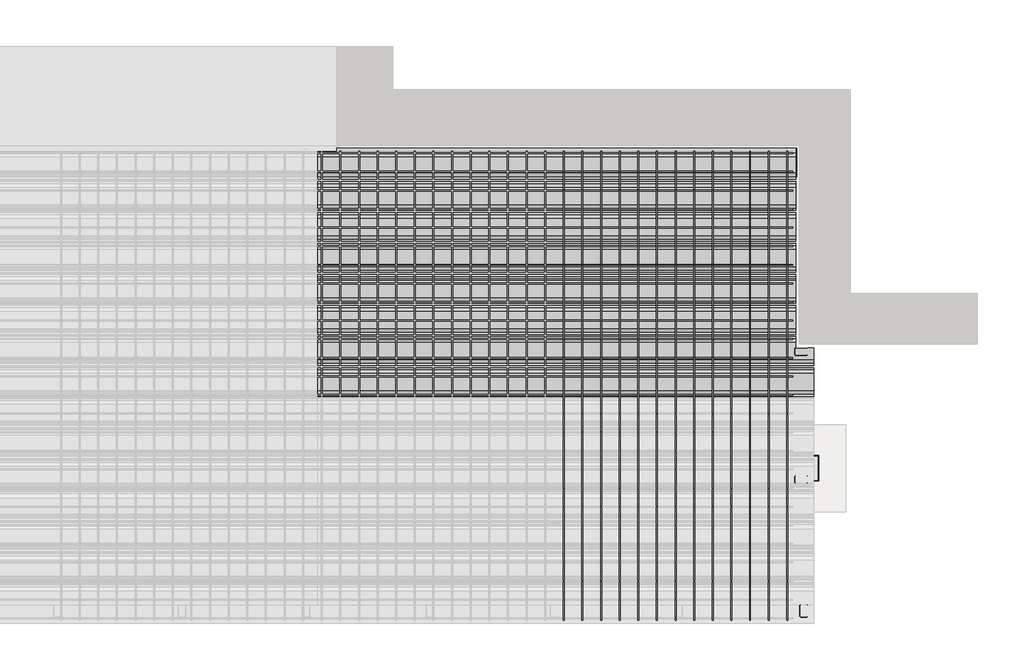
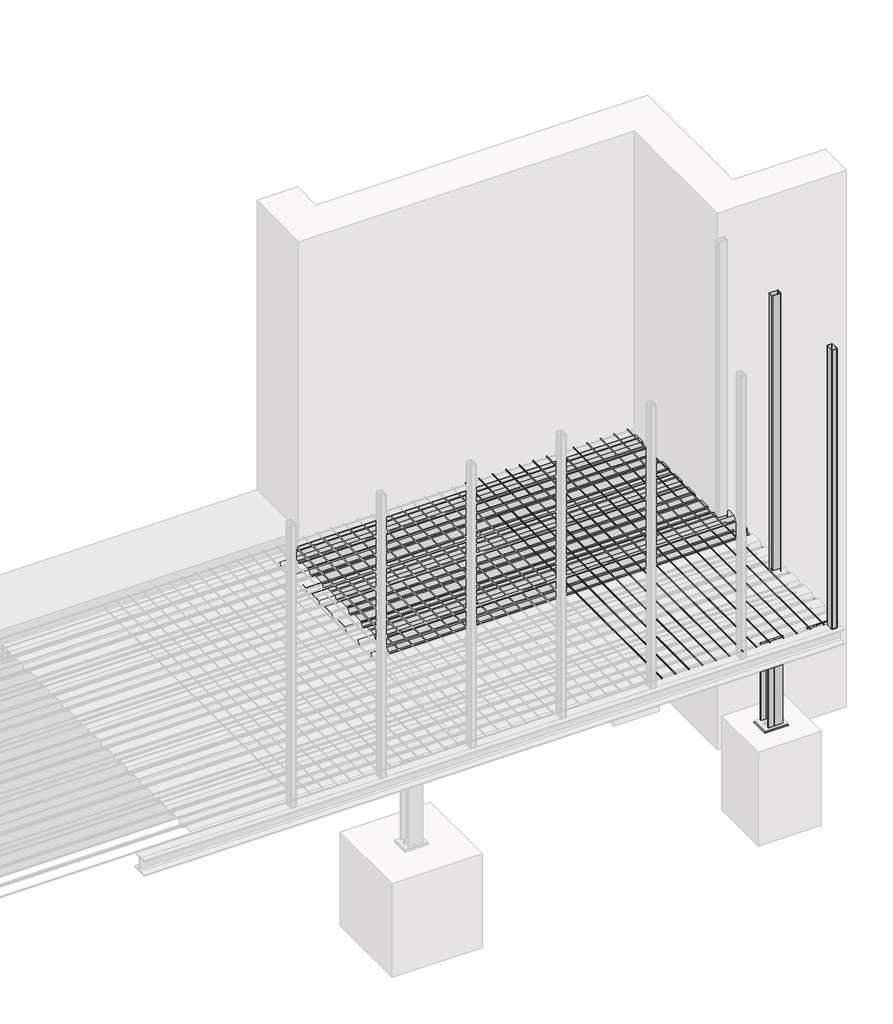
# One storey, part 5 of 36: 20 beams, 4 columns, 4 plates.
"""IFC4 building model written with IfcOpenShell, lengths in millimetres."""

from ifc_helpers import new_model, si_unit, point, frame, frame_2d, origin, place, context, project, spatial, polyline, circle_curve, ellipse_curve, trimmed, segment, composite_curve, outline, extrude, faceted_brep, element, save
from ifc_brep_helpers import plane_surface, revolved_surface, advanced_brep

model = new_model("IFC4")

# Units and contexts
model_context = context("Model", 3, world=origin())
ifc_project = project(units=[si_unit("LENGTHUNIT", "METRE", prefix="MILLI")], contexts=[model_context])

# Site, building, storey
site = spatial("IfcSite", under=ifc_project)
building = spatial("IfcBuilding", under=site)
storey = spatial("IfcBuildingStorey", under=building, Name="Základy", Elevation=-1200.0)

# Beams
placement = place(None, origin())
element("IfcBeam", 1, ObjectType="D8", at=placement, inside=storey, context=model_context, shape_type="SweptSolid", body=[
    extrude(outline(composite_curve([segment(trimmed(circle_curve(frame_2d((-49.0, 14127.5)), 4.0), [point((-49.0, 14123.5))], [point((-49.0, 14131.5))], False, "CARTESIAN"), True, "CONTINUOUS"), segment(trimmed(circle_curve(frame_2d((-49.0, 14127.5)), 4.0), [point((-49.0, 14131.5))], [point((-49.0, 14123.5))], False, "CARTESIAN"), True, "CONTINUOUS")], self_intersect=False)), frame((0.0, 35.0, 0.0), z_axis=(0.0, 1.0, 0.0), x_axis=(0.0, 0.0, 1.0)), (0.0, 0.0, 1.0), 3780.0),
])
element("IfcBeam", 2, ObjectType="D8", at=placement, inside=storey, context=model_context, shape_type="SweptSolid", body=[
    extrude(outline(composite_curve([segment(trimmed(circle_curve(frame_2d((-49.0, 14277.5)), 4.0), [point((-49.0, 14273.5))], [point((-49.0, 14281.5))], False, "CARTESIAN"), True, "CONTINUOUS"), segment(trimmed(circle_curve(frame_2d((-49.0, 14277.5)), 4.0), [point((-49.0, 14281.5))], [point((-49.0, 14273.5))], False, "CARTESIAN"), True, "CONTINUOUS")], self_intersect=False)), frame((0.0, 35.0, 0.0), z_axis=(0.0, 1.0, 0.0), x_axis=(0.0, 0.0, 1.0)), (0.0, 0.0, 1.0), 3780.0),
])
element("IfcBeam", 3, ObjectType="D8", at=placement, inside=storey, context=model_context, shape_type="SweptSolid", body=[
    extrude(outline(composite_curve([segment(trimmed(circle_curve(frame_2d((-49.0, 14427.5)), 4.0), [point((-49.0, 14423.5))], [point((-49.0, 14431.5))], False, "CARTESIAN"), True, "CONTINUOUS"), segment(trimmed(circle_curve(frame_2d((-49.0, 14427.5)), 4.0), [point((-49.0, 14431.5))], [point((-49.0, 14423.5))], False, "CARTESIAN"), True, "CONTINUOUS")], self_intersect=False)), frame((0.0, 35.0, 0.0), z_axis=(0.0, 1.0, 0.0), x_axis=(0.0, 0.0, 1.0)), (0.0, 0.0, 1.0), 3780.0),
])
element("IfcBeam", 4, ObjectType="D8", at=placement, inside=storey, context=model_context, shape_type="SweptSolid", body=[
    extrude(outline(composite_curve([segment(trimmed(circle_curve(frame_2d((-49.0, 14577.5)), 4.0), [point((-49.0, 14573.5))], [point((-49.0, 14581.5))], False, "CARTESIAN"), True, "CONTINUOUS"), segment(trimmed(circle_curve(frame_2d((-49.0, 14577.5)), 4.0), [point((-49.0, 14581.5))], [point((-49.0, 14573.5))], False, "CARTESIAN"), True, "CONTINUOUS")], self_intersect=False)), frame((0.0, 35.0, 0.0), z_axis=(0.0, 1.0, 0.0), x_axis=(0.0, 0.0, 1.0)), (0.0, 0.0, 1.0), 3780.0),
])
element("IfcBeam", 5, ObjectType="D8", at=placement, inside=storey, context=model_context, shape_type="SweptSolid", body=[
    extrude(outline(composite_curve([segment(trimmed(circle_curve(frame_2d((-49.0, 14727.5)), 4.0), [point((-49.0, 14723.5))], [point((-49.0, 14731.5))], False, "CARTESIAN"), True, "CONTINUOUS"), segment(trimmed(circle_curve(frame_2d((-49.0, 14727.5)), 4.0), [point((-49.0, 14731.5))], [point((-49.0, 14723.5))], False, "CARTESIAN"), True, "CONTINUOUS")], self_intersect=False)), frame((0.0, 35.0, 0.0), z_axis=(0.0, 1.0, 0.0), x_axis=(0.0, 0.0, 1.0)), (0.0, 0.0, 1.0), 3780.0),
])
element("IfcBeam", 6, ObjectType="D8", at=placement, inside=storey, context=model_context, shape_type="SweptSolid", body=[
    extrude(outline(composite_curve([segment(trimmed(circle_curve(frame_2d((-49.0, 14877.5)), 4.0), [point((-49.0, 14873.5))], [point((-49.0, 14881.5))], False, "CARTESIAN"), True, "CONTINUOUS"), segment(trimmed(circle_curve(frame_2d((-49.0, 14877.5)), 4.0), [point((-49.0, 14881.5))], [point((-49.0, 14873.5))], False, "CARTESIAN"), True, "CONTINUOUS")], self_intersect=False)), frame((0.0, 35.0, 0.0), z_axis=(0.0, 1.0, 0.0), x_axis=(0.0, 0.0, 1.0)), (0.0, 0.0, 1.0), 3780.0),
])
element("IfcBeam", 7, ObjectType="D8", at=placement, inside=storey, context=model_context, shape_type="SweptSolid", body=[
    extrude(outline(composite_curve([segment(trimmed(circle_curve(frame_2d((-49.0, 15027.5)), 4.0), [point((-49.0, 15023.5))], [point((-49.0, 15031.5))], False, "CARTESIAN"), True, "CONTINUOUS"), segment(trimmed(circle_curve(frame_2d((-49.0, 15027.5)), 4.0), [point((-49.0, 15031.5))], [point((-49.0, 15023.5))], False, "CARTESIAN"), True, "CONTINUOUS")], self_intersect=False)), frame((0.0, 35.0, 0.0), z_axis=(0.0, 1.0, 0.0), x_axis=(0.0, 0.0, 1.0)), (0.0, 0.0, 1.0), 3780.0),
])
element("IfcBeam", 8, ObjectType="D8", at=placement, inside=storey, context=model_context, shape_type="SweptSolid", body=[
    extrude(outline(composite_curve([segment(trimmed(circle_curve(frame_2d((-49.0, 15177.5)), 4.0), [point((-49.0, 15173.5))], [point((-49.0, 15181.5))], False, "CARTESIAN"), True, "CONTINUOUS"), segment(trimmed(circle_curve(frame_2d((-49.0, 15177.5)), 4.0), [point((-49.0, 15181.5))], [point((-49.0, 15173.5))], False, "CARTESIAN"), True, "CONTINUOUS")], self_intersect=False)), frame((0.0, 35.0, 0.0), z_axis=(0.0, 1.0, 0.0), x_axis=(0.0, 0.0, 1.0)), (0.0, 0.0, 1.0), 3780.0),
])
element("IfcBeam", 9, ObjectType="D8", at=placement, inside=storey, context=model_context, shape_type="SweptSolid", body=[
    extrude(outline(composite_curve([segment(trimmed(circle_curve(frame_2d((-49.0, 15327.5)), 4.0), [point((-49.0, 15323.5))], [point((-49.0, 15331.5))], False, "CARTESIAN"), True, "CONTINUOUS"), segment(trimmed(circle_curve(frame_2d((-49.0, 15327.5)), 4.0), [point((-49.0, 15331.5))], [point((-49.0, 15323.5))], False, "CARTESIAN"), True, "CONTINUOUS")], self_intersect=False)), frame((0.0, 35.0, 0.0), z_axis=(0.0, 1.0, 0.0), x_axis=(0.0, 0.0, 1.0)), (0.0, 0.0, 1.0), 3780.0),
])
element("IfcBeam", 10, ObjectType="D8", at=placement, inside=storey, context=model_context, shape_type="SweptSolid", body=[
    extrude(outline(composite_curve([segment(trimmed(circle_curve(frame_2d((-49.0, 15477.5)), 4.0), [point((-49.0, 15473.5))], [point((-49.0, 15481.5))], False, "CARTESIAN"), True, "CONTINUOUS"), segment(trimmed(circle_curve(frame_2d((-49.0, 15477.5)), 4.0), [point((-49.0, 15481.5))], [point((-49.0, 15473.5))], False, "CARTESIAN"), True, "CONTINUOUS")], self_intersect=False)), frame((0.0, 35.0, 0.0), z_axis=(0.0, 1.0, 0.0), x_axis=(0.0, 0.0, 1.0)), (0.0, 0.0, 1.0), 3780.0),
])
element("IfcBeam", 11, ObjectType="D8", at=placement, inside=storey, context=model_context, shape_type="SweptSolid", body=[
    extrude(outline(composite_curve([segment(trimmed(circle_curve(frame_2d((-49.0, 15627.5)), 4.0), [point((-49.0, 15623.5))], [point((-49.0, 15631.5))], False, "CARTESIAN"), True, "CONTINUOUS"), segment(trimmed(circle_curve(frame_2d((-49.0, 15627.5)), 4.0), [point((-49.0, 15631.5))], [point((-49.0, 15623.5))], False, "CARTESIAN"), True, "CONTINUOUS")], self_intersect=False)), frame((0.0, 35.0, 0.0), z_axis=(0.0, 1.0, 0.0), x_axis=(0.0, 0.0, 1.0)), (0.0, 0.0, 1.0), 3780.0),
])
element("IfcBeam", 12, ObjectType="D8", at=placement, inside=storey, context=model_context, shape_type="SweptSolid", body=[
    extrude(outline(composite_curve([segment(trimmed(circle_curve(frame_2d((-49.0, 15777.5)), 4.0), [point((-49.0, 15773.5))], [point((-49.0, 15781.5))], False, "CARTESIAN"), True, "CONTINUOUS"), segment(trimmed(circle_curve(frame_2d((-49.0, 15777.5)), 4.0), [point((-49.0, 15781.5))], [point((-49.0, 15773.5))], False, "CARTESIAN"), True, "CONTINUOUS")], self_intersect=False)), frame((0.0, 35.0, 0.0), z_axis=(0.0, 1.0, 0.0), x_axis=(0.0, 0.0, 1.0)), (0.0, 0.0, 1.0), 3780.0),
])
element("IfcBeam", 13, ObjectType="D8", at=placement, inside=storey, context=model_context, shape_type="SweptSolid", body=[
    extrude(outline(composite_curve([segment(trimmed(circle_curve(frame_2d((-49.0, 15927.5)), 4.0), [point((-49.0, 15923.5))], [point((-49.0, 15931.5))], False, "CARTESIAN"), True, "CONTINUOUS"), segment(trimmed(circle_curve(frame_2d((-49.0, 15927.5)), 4.0), [point((-49.0, 15931.5))], [point((-49.0, 15923.5))], False, "CARTESIAN"), True, "CONTINUOUS")], self_intersect=False)), frame((0.0, 35.0, 0.0), z_axis=(0.0, 1.0, 0.0), x_axis=(0.0, 0.0, 1.0)), (0.0, 0.0, 1.0), 3780.0),
])
element("IfcBeam", 14, ObjectType="HEB180", at=placement, inside=storey, context=model_context, shape_type="AdvancedBrep", body=[
    advanced_brep(
    [(15960.0, 2050.0, -160.0), (16140.0, 2230.0, -160.0), (15995.0, 2230.0, -160.0), (15815.0, 2050.0, -160.0), (15960.0, 2050.0, -174.0), (15815.0, 2050.0, -174.0), (16030.75, 2120.75, -174.0), (15885.75, 2120.75, -174.0), (16045.75, 2135.75, -189.0), (15900.75, 2135.75, -189.0), (16045.75, 2135.75, -311.0), (15900.75, 2135.75, -311.0), (16030.75, 2120.75, -326.0), (15885.75, 2120.75, -326.0), (15960.0, 2050.0, -326.0), (15815.0, 2050.0, -326.0), (15960.0, 2050.0, -340.0), (15815.0, 2050.0, -340.0), (16140.0, 2230.0, -340.0), (15995.0, 2230.0, -340.0), (16140.0, 2230.0, -326.0), (15995.0, 2230.0, -326.0), (16069.25, 2159.25, -326.0), (15924.25, 2159.25, -326.0), (16054.25, 2144.25, -311.0), (15909.25, 2144.25, -311.0), (16054.25, 2144.25, -189.0), (15909.25, 2144.25, -189.0), (16069.25, 2159.25, -174.0), (15924.25, 2159.25, -174.0), (16140.0, 2230.0, -174.0), (15995.0, 2230.0, -174.0)],
    [
        (0, 1),
        (1, 2),
        (2, 3),
        (3, 0),
        (4, 0),
        (3, 5),
        (5, 4),
        (6, 4),
        (5, 7),
        (7, 6),
        (8, 6, ellipse_curve(frame((16030.75, 2120.75, -189.0), z_axis=(0.7071067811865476, -0.7071067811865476, 0.0), x_axis=(-0.7071067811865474, -0.7071067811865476, 0.0)), 21.2132034, 15.0)),
        (7, 9, ellipse_curve(frame((15885.75, 2120.75, -189.0), z_axis=(-0.7071067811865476, 0.7071067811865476, 0.0), x_axis=(-0.7071067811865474, -0.7071067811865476, 0.0)), 21.2132034, 15.0)),
        (9, 8),
        (10, 8),
        (9, 11),
        (11, 10),
        (12, 10, ellipse_curve(frame((16030.75, 2120.75, -311.0), z_axis=(0.7071067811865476, -0.7071067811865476, 0.0), x_axis=(-0.7071067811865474, -0.7071067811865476, 0.0)), 21.2132034, 15.0)),
        (11, 13, ellipse_curve(frame((15885.75, 2120.75, -311.0), z_axis=(-0.7071067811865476, 0.7071067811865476, 0.0), x_axis=(-0.7071067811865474, -0.7071067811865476, 0.0)), 21.2132034, 15.0)),
        (13, 12),
        (14, 12),
        (13, 15),
        (15, 14),
        (16, 14),
        (15, 17),
        (17, 16),
        (18, 16),
        (17, 19),
        (19, 18),
        (20, 18),
        (19, 21),
        (21, 20),
        (22, 20),
        (21, 23),
        (23, 22),
        (24, 22, ellipse_curve(frame((16069.25, 2159.25, -311.0), z_axis=(0.7071067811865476, -0.7071067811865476, 0.0), x_axis=(-0.7071067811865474, -0.7071067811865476, 0.0)), 21.2132034, 15.0)),
        (23, 25, ellipse_curve(frame((15924.25, 2159.25, -311.0), z_axis=(-0.7071067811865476, 0.7071067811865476, 0.0), x_axis=(-0.7071067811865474, -0.7071067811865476, 0.0)), 21.2132034, 15.0)),
        (25, 24),
        (26, 24),
        (25, 27),
        (27, 26),
        (28, 26, ellipse_curve(frame((16069.25, 2159.25, -189.0), z_axis=(0.7071067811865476, -0.7071067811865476, 0.0), x_axis=(-0.7071067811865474, -0.7071067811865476, 0.0)), 21.2132034, 15.0)),
        (27, 29, ellipse_curve(frame((15924.25, 2159.25, -189.0), z_axis=(-0.7071067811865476, 0.7071067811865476, 0.0), x_axis=(-0.7071067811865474, -0.7071067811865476, 0.0)), 21.2132034, 15.0)),
        (29, 28),
        (30, 28),
        (29, 31),
        (31, 30),
        (1, 30),
        (31, 2),
    ],
    [
        plane_surface(frame((16150.0, 2230.0, -160.0), z_axis=(0.0, 0.0, 1.0), x_axis=(-1.0, 0.0, 0.0))),
        plane_surface(frame((16150.0, 2050.0, -160.0), z_axis=(0.0, -1.0, 0.0), x_axis=(-1.0, 0.0, 0.0))),
        plane_surface(frame((16150.0, 2050.0, -174.0), z_axis=(0.0, 0.0, -1.0), x_axis=(-1.0, 0.0, 0.0))),
        revolved_surface(polyline([(15870.750000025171, 2105.75, -189.0), (16045.75, 2105.75, -189.0)]), (15805.0, 2120.75, -189.0), (-1.0, 0.0, 0.0)),
        plane_surface(frame((16150.0, 2135.75, -189.0), z_axis=(0.0, -1.0, 0.0), x_axis=(-1.0, 0.0, 0.0))),
        revolved_surface(polyline([(15870.750000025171, 2105.75, -311.0), (16045.75, 2105.75, -311.0)]), (15805.0, 2120.75, -311.0), (-1.0, 0.0, 0.0)),
        plane_surface(frame((16150.0, 2120.75, -326.0), z_axis=(0.0, 0.0, 1.0), x_axis=(-1.0, 0.0, 0.0))),
        plane_surface(frame((16150.0, 2050.0, -326.0), z_axis=(0.0, -1.0, 0.0), x_axis=(-1.0, 0.0, 0.0))),
        plane_surface(frame((16150.0, 2050.0, -340.0), z_axis=(0.0, 0.0, -1.0), x_axis=(-1.0, 0.0, 0.0))),
        plane_surface(frame((16150.0, 2230.0, -340.0), z_axis=(0.0, 1.0, 0.0), x_axis=(-1.0, 0.0, 0.0))),
        plane_surface(frame((16150.0, 2230.0, -326.0), z_axis=(0.0, 0.0, 1.0), x_axis=(-1.0, 0.0, 0.0))),
        revolved_surface(polyline([(15909.25, 2144.25, -311.0), (16084.249999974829, 2144.25, -311.0)]), (15805.0, 2159.25, -311.0), (-1.0, 0.0, 0.0)),
        plane_surface(frame((16150.0, 2144.25, -311.0), z_axis=(0.0, 1.0, 0.0), x_axis=(-1.0, 0.0, 0.0))),
        revolved_surface(polyline([(15909.25, 2144.25, -189.0), (16084.249999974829, 2144.25, -189.0)]), (15805.0, 2159.25, -189.0), (-1.0, 0.0, 0.0)),
        plane_surface(frame((16150.0, 2159.25, -174.0), z_axis=(0.0, 0.0, -1.0), x_axis=(-1.0, 0.0, 0.0))),
        plane_surface(frame((16150.0, 2230.0, -174.0), z_axis=(0.0, 1.0, 0.0), x_axis=(-1.0, 0.0, 0.0))),
        plane_surface(frame((16150.0, 2240.0, -160.0), z_axis=(0.7071067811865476, -0.7071067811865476, 0.0), x_axis=(0.7071067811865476, 0.7071067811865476, 0.0))),
        plane_surface(frame((15805.0, 2040.0, -160.0), z_axis=(-0.7071067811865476, 0.7071067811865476, 0.0), x_axis=(0.7071067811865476, 0.7071067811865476, 0.0))),
    ],
    [
        (0, [[1, 2, 3, 4]]),
        (1, [[5, -4, 6, 7]]),
        (2, [[8, -7, 9, 10]]),
        (3, [[11, -10, 12, 13]]),
        (4, [[14, -13, 15, 16]]),
        (5, [[17, -16, 18, 19]]),
        (6, [[20, -19, 21, 22]]),
        (7, [[23, -22, 24, 25]]),
        (8, [[26, -25, 27, 28]]),
        (9, [[29, -28, 30, 31]]),
        (10, [[32, -31, 33, 34]]),
        (11, [[35, -34, 36, 37]]),
        (12, [[38, -37, 39, 40]]),
        (13, [[41, -40, 42, 43]]),
        (14, [[44, -43, 45, 46]]),
        (15, [[47, -46, 48, -2]]),
        (16, [[-1, -5, -8, -11, -14, -17, -20, -23, -26, -29, -32, -35, -38, -41, -44, -47]]),
        (17, [[-3, -48, -45, -42, -39, -36, -33, -30, -27, -24, -21, -18, -15, -12, -9, -6]]),
    ],
),
])
element("IfcBeam", 15, ObjectType="HEB180", at=placement, inside=storey, context=model_context, shape_type="AdvancedBrep", body=[
    advanced_brep(
    [(15995.0, 3840.0, -340.0), (15815.0, 3840.0, -340.0), (15815.0, 3840.0, -326.0), (15885.75, 3840.0, -326.0), (15900.75, 3840.0, -311.0), (15900.75, 3840.0, -189.0), (15885.75, 3840.0, -174.0), (15815.0, 3840.0, -174.0), (15815.0, 3840.0, -160.0), (15995.0, 3840.0, -160.0), (15995.0, 3840.0, -174.0), (15924.25, 3840.0, -174.0), (15909.25, 3840.0, -189.0), (15909.25, 3840.0, -311.0), (15924.25, 3840.0, -326.0), (15995.0, 3840.0, -326.0), (15995.0, 2230.0, -340.0), (15815.0, 2050.0, -340.0), (15815.0, 2050.0, -326.0), (15885.75, 2120.75, -326.0), (15900.75, 2135.75, -311.0), (15900.75, 2135.75, -189.0), (15885.75, 2120.75, -174.0), (15815.0, 2050.0, -174.0), (15815.0, 2050.0, -160.0), (15995.0, 2230.0, -160.0), (15995.0, 2230.0, -174.0), (15924.25, 2159.25, -174.0), (15909.25, 2144.25, -189.0), (15909.25, 2144.25, -311.0), (15924.25, 2159.25, -326.0), (15995.0, 2230.0, -326.0)],
    [
        (0, 1),
        (1, 2),
        (2, 3),
        (3, 4, circle_curve(frame((15885.75, 3840.0, -311.0), z_axis=(0.0, -1.0, 0.0), x_axis=(-1.0, 0.0, 0.0)), 15.0)),
        (4, 5),
        (5, 6, circle_curve(frame((15885.75, 3840.0, -189.0), z_axis=(0.0, -1.0, 0.0), x_axis=(-1.0, 0.0, 0.0)), 15.0)),
        (6, 7),
        (7, 8),
        (8, 9),
        (9, 10),
        (10, 11),
        (11, 12, circle_curve(frame((15924.25, 3840.0, -189.0), z_axis=(0.0, -1.0, 0.0), x_axis=(-1.0, 0.0, 0.0)), 15.0)),
        (12, 13),
        (13, 14, circle_curve(frame((15924.25, 3840.0, -311.0), z_axis=(0.0, -1.0, 0.0), x_axis=(-1.0, 0.0, 0.0)), 15.0)),
        (14, 15),
        (15, 0),
        (0, 16),
        (16, 17),
        (17, 1),
        (17, 18),
        (18, 2),
        (18, 19),
        (19, 3),
        (19, 20, ellipse_curve(frame((15885.75, 2120.75, -311.0), z_axis=(0.7071067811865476, -0.7071067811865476, 0.0), x_axis=(-0.7071067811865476, -0.7071067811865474, 0.0)), 21.2132034, 15.0)),
        (20, 4),
        (20, 21),
        (21, 5),
        (21, 22, ellipse_curve(frame((15885.75, 2120.75, -189.0), z_axis=(0.7071067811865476, -0.7071067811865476, 0.0), x_axis=(-0.7071067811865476, -0.7071067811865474, 0.0)), 21.2132034, 15.0)),
        (22, 6),
        (22, 23),
        (23, 7),
        (23, 24),
        (24, 8),
        (24, 25),
        (25, 9),
        (25, 26),
        (26, 10),
        (26, 27),
        (27, 11),
        (27, 28, ellipse_curve(frame((15924.25, 2159.25, -189.0), z_axis=(0.7071067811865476, -0.7071067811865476, 0.0), x_axis=(-0.7071067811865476, -0.7071067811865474, 0.0)), 21.2132034, 15.0)),
        (28, 12),
        (28, 29),
        (29, 13),
        (29, 30, ellipse_curve(frame((15924.25, 2159.25, -311.0), z_axis=(0.7071067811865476, -0.7071067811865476, 0.0), x_axis=(-0.7071067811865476, -0.7071067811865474, 0.0)), 21.2132034, 15.0)),
        (30, 14),
        (30, 31),
        (31, 15),
        (31, 16),
    ],
    [
        plane_surface(frame((15905.0, 3840.0, -250.0), z_axis=(0.0, 1.0, 0.0), x_axis=(0.0, 0.0, 1.0))),
        plane_surface(frame((15995.0, 3840.0, -340.0), z_axis=(0.0, 0.0, -1.0), x_axis=(0.0, -1.0, 0.0))),
        plane_surface(frame((15815.0, 3840.0, -340.0), z_axis=(-1.0, 0.0, 0.0), x_axis=(0.0, -1.0, 0.0))),
        plane_surface(frame((15815.0, 3840.0, -326.0), z_axis=(0.0, 0.0, 1.0), x_axis=(0.0, -1.0, 0.0))),
        revolved_surface(polyline([(15870.75, 2105.7500000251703, -311.0), (15870.75, 3840.0, -311.0)]), (15885.75, 2040.0, -311.0), (0.0, -1.0, 0.0)),
        plane_surface(frame((15900.75, 3840.0, -311.0), z_axis=(-1.0, 0.0, 0.0), x_axis=(0.0, -1.0, 0.0))),
        revolved_surface(polyline([(15870.75, 2105.7500000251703, -189.0), (15870.75, 3840.0, -189.0)]), (15885.75, 2040.0, -189.0), (0.0, -1.0, 0.0)),
        plane_surface(frame((15885.75, 3840.0, -174.0), z_axis=(0.0, 0.0, -1.0), x_axis=(0.0, -1.0, 0.0))),
        plane_surface(frame((15815.0, 3840.0, -174.0), z_axis=(-1.0, 0.0, 0.0), x_axis=(0.0, -1.0, 0.0))),
        plane_surface(frame((15815.0, 3840.0, -160.0), z_axis=(0.0, 0.0, 1.0), x_axis=(0.0, -1.0, 0.0))),
        plane_surface(frame((15995.0, 3840.0, -160.0), z_axis=(1.0, 0.0, 0.0), x_axis=(0.0, -1.0, 0.0))),
        plane_surface(frame((15995.0, 3840.0, -174.0), z_axis=(0.0, 0.0, -1.0), x_axis=(0.0, -1.0, 0.0))),
        revolved_surface(polyline([(15909.25, 2144.25, -189.0), (15909.25, 3840.0, -189.0)]), (15924.25, 2040.0, -189.0), (0.0, -1.0, 0.0)),
        plane_surface(frame((15909.25, 3840.0, -189.0), z_axis=(1.0, 0.0, 0.0), x_axis=(0.0, -1.0, 0.0))),
        revolved_surface(polyline([(15909.25, 2144.25, -311.0), (15909.25, 3840.0, -311.0)]), (15924.25, 2040.0, -311.0), (0.0, -1.0, 0.0)),
        plane_surface(frame((15924.25, 3840.0, -326.0), z_axis=(0.0, 0.0, 1.0), x_axis=(0.0, -1.0, 0.0))),
        plane_surface(frame((15995.0, 3840.0, -326.0), z_axis=(1.0, 0.0, 0.0), x_axis=(0.0, -1.0, 0.0))),
        plane_surface(frame((16005.0, 2240.0, -160.0), z_axis=(0.7071067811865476, -0.7071067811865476, 0.0), x_axis=(0.7071067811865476, 0.7071067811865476, 0.0))),
    ],
    [
        (0, [[1, 2, 3, 4, 5, 6, 7, 8, 9, 10, 11, 12, 13, 14, 15, 16]]),
        (1, [[-1, 17, 18, 19]]),
        (2, [[-2, -19, 20, 21]]),
        (3, [[-3, -21, 22, 23]]),
        (4, [[-4, -23, 24, 25]]),
        (5, [[-5, -25, 26, 27]]),
        (6, [[-6, -27, 28, 29]]),
        (7, [[-7, -29, 30, 31]]),
        (8, [[-8, -31, 32, 33]]),
        (9, [[-9, -33, 34, 35]]),
        (10, [[-10, -35, 36, 37]]),
        (11, [[-11, -37, 38, 39]]),
        (12, [[-12, -39, 40, 41]]),
        (13, [[-13, -41, 42, 43]]),
        (14, [[-14, -43, 44, 45]]),
        (15, [[-15, -45, 46, 47]]),
        (16, [[-16, -47, 48, -17]]),
        (17, [[-18, -48, -46, -44, -42, -40, -38, -36, -34, -32, -30, -28, -26, -24, -22, -20]]),
    ],
),
])
element("IfcBeam", 16, ObjectType="HEB180", at=placement, inside=storey, context=model_context, shape_type="AdvancedBrep", body=[
    advanced_brep(
    [(16140.0, 210.0, -160.0), (15960.0, 210.0, -160.0), (15960.0, 210.0, -174.0), (16030.75, 210.0, -174.0), (16045.75, 210.0, -189.0), (16045.75, 210.0, -311.0), (16030.75, 210.0, -326.0), (15960.0, 210.0, -326.0), (15960.0, 210.0, -340.0), (16140.0, 210.0, -340.0), (16140.0, 210.0, -326.0), (16069.25, 210.0, -326.0), (16054.25, 210.0, -311.0), (16054.25, 210.0, -189.0), (16069.25, 210.0, -174.0), (16140.0, 210.0, -174.0), (16140.0, 2230.0, -160.0), (15960.0, 2050.0, -160.0), (15960.0, 2050.0, -174.0), (16030.75, 2120.75, -174.0), (16045.75, 2135.75, -189.0), (16045.75, 2135.75, -311.0), (16030.75, 2120.75, -326.0), (15960.0, 2050.0, -326.0), (15960.0, 2050.0, -340.0), (16140.0, 2230.0, -340.0), (16140.0, 2230.0, -326.0), (16069.25, 2159.25, -326.0), (16054.25, 2144.25, -311.0), (16054.25, 2144.25, -189.0), (16069.25, 2159.25, -174.0), (16140.0, 2230.0, -174.0)],
    [
        (0, 1),
        (1, 2),
        (2, 3),
        (3, 4, circle_curve(frame((16030.75, 210.0, -189.0), z_axis=(0.0, 1.0, 0.0), x_axis=(-1.0, 0.0, 0.0)), 15.0)),
        (4, 5),
        (5, 6, circle_curve(frame((16030.75, 210.0, -311.0), z_axis=(0.0, 1.0, 0.0), x_axis=(-1.0, 0.0, 0.0)), 15.0)),
        (6, 7),
        (7, 8),
        (8, 9),
        (9, 10),
        (10, 11),
        (11, 12, circle_curve(frame((16069.25, 210.0, -311.0), z_axis=(0.0, 1.0, 0.0), x_axis=(-1.0, 0.0, 0.0)), 15.0)),
        (12, 13),
        (13, 14, circle_curve(frame((16069.25, 210.0, -189.0), z_axis=(0.0, 1.0, 0.0), x_axis=(-1.0, 0.0, 0.0)), 15.0)),
        (14, 15),
        (15, 0),
        (0, 16),
        (16, 17),
        (17, 1),
        (17, 18),
        (18, 2),
        (18, 19),
        (19, 3),
        (19, 20, ellipse_curve(frame((16030.75, 2120.75, -189.0), z_axis=(-0.7071067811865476, 0.7071067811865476, 0.0), x_axis=(0.7071067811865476, 0.7071067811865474, 0.0)), 21.2132034, 15.0)),
        (20, 4),
        (20, 21),
        (21, 5),
        (21, 22, ellipse_curve(frame((16030.75, 2120.75, -311.0), z_axis=(-0.7071067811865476, 0.7071067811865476, 0.0), x_axis=(0.7071067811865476, 0.7071067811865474, 0.0)), 21.2132034, 15.0)),
        (22, 6),
        (22, 23),
        (23, 7),
        (23, 24),
        (24, 8),
        (24, 25),
        (25, 9),
        (25, 26),
        (26, 10),
        (26, 27),
        (27, 11),
        (27, 28, ellipse_curve(frame((16069.25, 2159.25, -311.0), z_axis=(-0.7071067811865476, 0.7071067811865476, 0.0), x_axis=(0.7071067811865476, 0.7071067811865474, 0.0)), 21.2132034, 15.0)),
        (28, 12),
        (28, 29),
        (29, 13),
        (29, 30, ellipse_curve(frame((16069.25, 2159.25, -189.0), z_axis=(-0.7071067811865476, 0.7071067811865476, 0.0), x_axis=(0.7071067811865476, 0.7071067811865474, 0.0)), 21.2132034, 15.0)),
        (30, 14),
        (30, 31),
        (31, 15),
        (31, 16),
    ],
    [
        plane_surface(frame((16050.0, 210.0, -250.0), z_axis=(0.0, -1.0, 0.0), x_axis=(0.0, 0.0, -1.0))),
        plane_surface(frame((16140.0, 210.0, -160.0), z_axis=(0.0, 0.0, 1.0), x_axis=(0.0, 1.0, 0.0))),
        plane_surface(frame((15960.0, 210.0, -160.0), z_axis=(-1.0, 0.0, 0.0), x_axis=(0.0, 1.0, 0.0))),
        plane_surface(frame((15960.0, 210.0, -174.0), z_axis=(0.0, 0.0, -1.0), x_axis=(0.0, 1.0, 0.0))),
        revolved_surface(polyline([(16015.75, 2135.75, -189.0), (16015.75, 210.0, -189.0)]), (16030.75, 2240.0, -189.0), (0.0, 1.0, 0.0)),
        plane_surface(frame((16045.75, 210.0, -189.0), z_axis=(-1.0, 0.0, 0.0), x_axis=(0.0, 1.0, 0.0))),
        revolved_surface(polyline([(16015.75, 2135.75, -311.0), (16015.75, 210.0, -311.0)]), (16030.75, 2240.0, -311.0), (0.0, 1.0, 0.0)),
        plane_surface(frame((16030.75, 210.0, -326.0), z_axis=(0.0, 0.0, 1.0), x_axis=(0.0, 1.0, 0.0))),
        plane_surface(frame((15960.0, 210.0, -326.0), z_axis=(-1.0, 0.0, 0.0), x_axis=(0.0, 1.0, 0.0))),
        plane_surface(frame((15960.0, 210.0, -340.0), z_axis=(0.0, 0.0, -1.0), x_axis=(0.0, 1.0, 0.0))),
        plane_surface(frame((16140.0, 210.0, -340.0), z_axis=(1.0, 0.0, 0.0), x_axis=(0.0, 1.0, 0.0))),
        plane_surface(frame((16140.0, 210.0, -326.0), z_axis=(0.0, 0.0, 1.0), x_axis=(0.0, 1.0, 0.0))),
        revolved_surface(polyline([(16054.25, 2174.2499999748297, -311.0), (16054.25, 210.0, -311.0)]), (16069.25, 2240.0, -311.0), (0.0, 1.0, 0.0)),
        plane_surface(frame((16054.25, 210.0, -311.0), z_axis=(1.0, 0.0, 0.0), x_axis=(0.0, 1.0, 0.0))),
        revolved_surface(polyline([(16054.25, 2174.2499999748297, -189.0), (16054.25, 210.0, -189.0)]), (16069.25, 2240.0, -189.0), (0.0, 1.0, 0.0)),
        plane_surface(frame((16069.25, 210.0, -174.0), z_axis=(0.0, 0.0, -1.0), x_axis=(0.0, 1.0, 0.0))),
        plane_surface(frame((16140.0, 210.0, -174.0), z_axis=(1.0, 0.0, 0.0), x_axis=(0.0, 1.0, 0.0))),
        plane_surface(frame((16150.0, 2240.0, -360.0), z_axis=(-0.7071067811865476, 0.7071067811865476, 0.0), x_axis=(0.7071067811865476, 0.7071067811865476, 0.0))),
    ],
    [
        (0, [[1, 2, 3, 4, 5, 6, 7, 8, 9, 10, 11, 12, 13, 14, 15, 16]]),
        (1, [[-1, 17, 18, 19]]),
        (2, [[-2, -19, 20, 21]]),
        (3, [[-3, -21, 22, 23]]),
        (4, [[-4, -23, 24, 25]]),
        (5, [[-5, -25, 26, 27]]),
        (6, [[-6, -27, 28, 29]]),
        (7, [[-7, -29, 30, 31]]),
        (8, [[-8, -31, 32, 33]]),
        (9, [[-9, -33, 34, 35]]),
        (10, [[-10, -35, 36, 37]]),
        (11, [[-11, -37, 38, 39]]),
        (12, [[-12, -39, 40, 41]]),
        (13, [[-13, -41, 42, 43]]),
        (14, [[-14, -43, 44, 45]]),
        (15, [[-15, -45, 46, 47]]),
        (16, [[-16, -47, 48, -17]]),
        (17, [[-18, -48, -46, -44, -42, -40, -38, -36, -34, -32, -30, -28, -26, -24, -22, -20]]),
    ],
),
])
element("IfcBeam", 17, ObjectType="IPE180", at=placement, inside=storey, context=model_context, shape_type="SweptSolid", body=[
    extrude(outline(composite_curve([segment(polyline([(-340.0, 14004.5), (-340.0, 14095.5), (-332.0, 14095.5), (-332.0, 14061.6500001)]), True, "CONTINUOUS"), segment(trimmed(circle_curve(frame_2d((-323.0, 14061.6500001)), 9.0), [point((-332.0, 14061.6500001))], [point((-323.0, 14052.6500001))], True, "CARTESIAN"), True, "CONTINUOUS"), segment(polyline([(-323.0, 14052.6500001), (-177.0, 14052.6500001)]), True, "CONTINUOUS"), segment(trimmed(circle_curve(frame_2d((-177.0, 14061.6500001)), 9.0), [point((-177.0, 14052.6500001))], [point((-168.0, 14061.6500001))], True, "CARTESIAN"), True, "CONTINUOUS"), segment(polyline([(-168.0, 14061.6500001), (-168.0, 14095.5), (-160.0, 14095.5), (-160.0, 14004.5), (-168.0, 14004.5), (-168.0, 14038.3499999)]), True, "CONTINUOUS"), segment(trimmed(circle_curve(frame_2d((-177.0, 14038.3499999)), 9.0), [point((-168.0, 14038.3499999))], [point((-177.0, 14047.3499999))], True, "CARTESIAN"), True, "CONTINUOUS"), segment(polyline([(-177.0, 14047.3499999), (-323.0, 14047.3499999)]), True, "CONTINUOUS"), segment(trimmed(circle_curve(frame_2d((-323.0, 14038.3499999)), 9.0), [point((-323.0, 14047.3499999))], [point((-332.0, 14038.3499999))], True, "CARTESIAN"), True, "CONTINUOUS"), segment(polyline([(-332.0, 14038.3499999), (-332.0, 14004.5), (-340.0, 14004.5)]), True, "CONTINUOUS")], self_intersect=False)), frame((0.0, 1370.0, 0.0), z_axis=(0.0, 1.0, 0.0), x_axis=(0.0, 0.0, 1.0)), (0.0, 0.0, 1.0), 2375.0),
])
element("IfcBeam", 18, ObjectType="TR50/250", at=placement, inside=storey, context=model_context, shape_type="SweptSolid", body=[
    extrude(outline(polyline([(3802.7875602, -160.0099992), (3772.2875602, -111.5000008), (3637.6975638, -111.5000008), (3607.1975638, -160.0000008), (3552.7875754, -160.0000008), (3522.2875754, -111.5000008), (3387.6975715, -111.5000008), (3357.1975715, -160.0000008), (3302.7875697, -160.0000008), (3272.2875716, -111.5000008), (3137.6975638, -111.5000008), (3107.1975638, -160.0000008), (3052.7875602, -160.0000008), (3022.2875602, -111.5000008), (2887.6975638, -111.5000008), (2857.1975638, -160.0000008), (2802.7875602, -160.0000008), (2790.7375724, -139.4300002), (2803.1975638, -159.2500008), (2856.7875602, -159.2500008), (2887.2875602, -110.7500008), (3022.6975638, -110.7500008), (3053.1975638, -159.2500008), (3106.7875754, -159.2500008), (3137.2875754, -110.7500008), (3272.6975715, -110.7500008), (3303.1975695, -159.2500008), (3356.7875716, -159.2500008), (3387.2875678, -110.7500008), (3522.6975638, -110.7500008), (3553.1975638, -159.2500008), (3606.7875602, -159.2500008), (3637.2875602, -110.7500008), (3772.6975638, -110.7500008), (3803.1975638, -159.2500008), (3839.9975821, -160.0000008), (3802.7875602, -160.0099992)])), frame((11960.0, 0.0, 0.0), z_axis=(1.0, 0.0, 0.0), x_axis=(0.0, 1.0, 0.0)), (0.0, 0.0, 1.0), 4035.0),
])
element("IfcBeam", 19, ObjectType="TR50/250", at=placement, inside=storey, context=model_context, shape_type="Brep", body=[
    faceted_brep([(11960.0, 2802.7875602, -160.0099992), (11960.0, 2772.2875602, -111.5000008), (11960.0, 2637.6975638, -111.5000008), (11960.0, 2607.1975638, -160.0000008), (11960.0, 2552.7875754, -160.0000008), (11960.0, 2522.2875754, -111.5000008), (11960.0, 2387.6975715, -111.5000008), (11960.0, 2357.1975715, -160.0000008), (11960.0, 2302.7875697, -160.0000008), (11960.0, 2272.2875716, -111.5000008), (11960.0, 2137.6975638, -111.5000008), (11960.0, 2107.1975638, -160.0000008), (11960.0, 2052.7875602, -160.0000008), (11960.0, 2022.2875602, -111.5000008), (11960.0, 1887.6975638, -111.5000008), (11960.0, 1857.1975638, -160.0000008), (11960.0, 1802.7875602, -160.0000008), (11960.0, 1790.7375724, -139.4300002), (11960.0, 1803.1975638, -159.2500008), (11960.0, 1856.7875602, -159.2500008), (11960.0, 1887.2875602, -110.7500008), (11960.0, 2022.6975638, -110.7500008), (11960.0, 2053.1975638, -159.2500008), (11960.0, 2106.7875754, -159.2500008), (11960.0, 2137.2875754, -110.7500008), (11960.0, 2272.6975715, -110.7500008), (11960.0, 2303.1975695, -159.2500008), (11960.0, 2356.7875716, -159.2500008), (11960.0, 2387.2875678, -110.7500008), (11960.0, 2522.6975638, -110.7500008), (11960.0, 2553.1975638, -159.2500008), (11960.0, 2606.7875602, -159.2500008), (11960.0, 2637.2875602, -110.7500008), (11960.0, 2772.6975638, -110.7500008), (11960.0, 2803.1975638, -159.2500008), (11960.0, 2839.9975821, -160.0000008), (16140.0, 2137.2875754, -110.7500008), (16140.0, 2106.7875754, -159.2500008), (16140.0, 2053.1975638, -159.2500008), (16140.0, 2022.6975638, -110.7500008), (16140.0, 1887.2875602, -110.7500008), (16140.0, 1856.7875602, -159.2500008), (16140.0, 1803.1975638, -159.2500008), (16140.0, 1790.7375724, -139.4300002), (16140.0, 1802.7875602, -160.0000008), (16140.0, 1857.1975638, -160.0000008), (16140.0, 1887.6975638, -111.5000008), (16140.0, 2022.2875602, -111.5000008), (16140.0, 2052.7875602, -160.0000008), (16140.0, 2107.1975638, -160.0000008), (16140.0, 2137.6975638, -111.5000008), (16140.0, 2230.0, -111.5000008), (16140.0, 2230.0, -110.7500008), (15995.0, 2802.7875602, -160.0099992), (15995.0, 2772.2875602, -111.5000008), (15995.0, 2637.6975638, -111.5000008), (15995.0, 2607.1975638, -160.0000008), (15995.0, 2552.7875754, -160.0000008), (15995.0, 2522.2875754, -111.5000008), (15995.0, 2387.6975715, -111.5000008), (15995.0, 2357.1975715, -160.0000008), (15995.0, 2302.7875697, -160.0000008), (15995.0, 2272.2875716, -111.5000008), (15995.0, 2230.0, -111.5000008), (15995.0, 2230.0, -110.7500008), (15995.0, 2272.6975715, -110.7500008), (15995.0, 2303.1975695, -159.2500008), (15995.0, 2356.7875716, -159.2500008), (15995.0, 2387.2875678, -110.7500008), (15995.0, 2522.6975638, -110.7500008), (15995.0, 2553.1975638, -159.2500008), (15995.0, 2606.7875602, -159.2500008), (15995.0, 2637.2875602, -110.7500008), (15995.0, 2772.6975638, -110.7500008), (15995.0, 2803.1975638, -159.2500008), (15995.0, 2839.9975821, -160.0000008)], [[[0, 1, 2, 3, 4, 5, 6, 7, 8, 9, 10, 11, 12, 13, 14, 15, 16, 17, 18, 19, 20, 21, 22, 23, 24, 25, 26, 27, 28, 29, 30, 31, 32, 33, 34, 35]], [[36, 37, 38, 39, 40, 41, 42, 43, 44, 45, 46, 47, 48, 49, 50, 51, 52]], [[1, 0, 53, 54]], [[2, 1, 54, 55]], [[3, 2, 55, 56]], [[4, 3, 56, 57]], [[5, 4, 57, 58]], [[6, 5, 58, 59]], [[7, 6, 59, 60]], [[8, 7, 60, 61]], [[9, 8, 61, 62]], [[10, 9, 62, 63, 51, 50]], [[11, 10, 50, 49]], [[12, 11, 49, 48]], [[13, 12, 48, 47]], [[14, 13, 47, 46]], [[15, 14, 46, 45]], [[16, 15, 45, 44]], [[17, 16, 44, 43]], [[18, 17, 43, 42]], [[19, 18, 42, 41]], [[20, 19, 41, 40]], [[21, 20, 40, 39]], [[22, 21, 39, 38]], [[23, 22, 38, 37]], [[24, 23, 37, 36]], [[25, 24, 36, 52, 64, 65]], [[26, 25, 65, 66]], [[27, 26, 66, 67]], [[28, 27, 67, 68]], [[29, 28, 68, 69]], [[30, 29, 69, 70]], [[31, 30, 70, 71]], [[32, 31, 71, 72]], [[33, 32, 72, 73]], [[34, 33, 73, 74]], [[35, 34, 74, 75]], [[0, 35, 75, 53]], [[63, 64, 52, 51]], [[64, 63, 62, 61, 60, 59, 58, 57, 56, 55, 54, 53, 75, 74, 73, 72, 71, 70, 69, 68, 67, 66, 65]]]),
])
element("IfcBeam", 20, ObjectType="UPE180", at=placement, inside=storey, context=model_context, shape_type="SweptSolid", body=[
    extrude(outline(polyline([(3840.0, -160.0), (3840.0, -340.0), (3765.0, -340.0), (3765.0, -329.5), (3834.5, -329.5), (3834.5, -170.5), (3765.0, -170.5), (3765.0, -160.0), (3840.0, -160.0)])), frame((12315.0, 0.0, 0.0), z_axis=(1.0, 0.0, 0.0), x_axis=(0.0, 1.0, 0.0)), (0.0, 0.0, 1.0), 3482.0),
])

# Columns
element("IfcColumn", 21, ObjectType="RHS100*60*3.2", at=placement, inside=storey, context=model_context, shape_type="SweptSolid", body=[
    extrude(outline(composite_curve([segment(polyline([(16090.0, 1193.6), (16090.0, 1146.4)]), True, "CONTINUOUS"), segment(trimmed(circle_curve(frame_2d((16083.6, 1146.4)), 6.4), [point((16090.0, 1146.4))], [point((16083.6, 1140.0))], False, "CARTESIAN"), True, "CONTINUOUS"), segment(polyline([(16083.6, 1140.0), (15996.4, 1140.0)]), True, "CONTINUOUS"), segment(trimmed(circle_curve(frame_2d((15996.4, 1146.4)), 6.4), [point((15996.4, 1140.0))], [point((15990.0, 1146.4))], False, "CARTESIAN"), True, "CONTINUOUS"), segment(polyline([(15990.0, 1146.4), (15990.0, 1193.6)]), True, "CONTINUOUS"), segment(trimmed(circle_curve(frame_2d((15996.4, 1193.6)), 6.4), [point((15990.0, 1193.6))], [point((15996.4, 1200.0))], False, "CARTESIAN"), True, "CONTINUOUS"), segment(polyline([(15996.4, 1200.0), (16083.6, 1200.0)]), True, "CONTINUOUS"), segment(trimmed(circle_curve(frame_2d((16083.6, 1193.6)), 6.4), [point((16083.6, 1200.0))], [point((16090.0, 1193.6))], False, "CARTESIAN"), True, "CONTINUOUS")], self_intersect=False), holes=[composite_curve([segment(trimmed(circle_curve(frame_2d((16083.6, 1193.6)), 3.2), [point((16086.8, 1193.6))], [point((16083.6, 1196.8))], True, "CARTESIAN"), True, "CONTINUOUS"), segment(polyline([(16083.6, 1196.8), (15996.4, 1196.8)]), True, "CONTINUOUS"), segment(trimmed(circle_curve(frame_2d((15996.4, 1193.6)), 3.2), [point((15996.4, 1196.8))], [point((15993.2, 1193.6))], True, "CARTESIAN"), True, "CONTINUOUS"), segment(polyline([(15993.2, 1193.6), (15993.2, 1146.4)]), True, "CONTINUOUS"), segment(trimmed(circle_curve(frame_2d((15996.4, 1146.4)), 3.2), [point((15993.2, 1146.4))], [point((15996.4, 1143.2))], True, "CARTESIAN"), True, "CONTINUOUS"), segment(polyline([(15996.4, 1143.2), (16083.6, 1143.2)]), True, "CONTINUOUS"), segment(trimmed(circle_curve(frame_2d((16083.6, 1146.4)), 3.2), [point((16083.6, 1143.2))], [point((16086.8, 1146.4))], True, "CARTESIAN"), True, "CONTINUOUS"), segment(polyline([(16086.8, 1146.4), (16086.8, 1193.6)]), True, "CONTINUOUS")], self_intersect=False)]), frame((0.0, 0.0, -160.0), z_axis=(0.0, 0.0, 1.0), x_axis=(1.0, 0.0, 0.0)), (0.0, 0.0, 1.0), 3280.0),
])
element("IfcColumn", 22, ObjectType="RHS100*60*3.2", at=placement, inside=storey, context=model_context, shape_type="SweptSolid", body=[
    extrude(outline(composite_curve([segment(polyline([(16036.4, 160.0), (16083.6, 160.0)]), True, "CONTINUOUS"), segment(trimmed(circle_curve(frame_2d((16083.6, 153.6)), 6.4), [point((16083.6, 160.0))], [point((16090.0, 153.6))], False, "CARTESIAN"), True, "CONTINUOUS"), segment(polyline([(16090.0, 153.6), (16090.0, 66.4)]), True, "CONTINUOUS"), segment(trimmed(circle_curve(frame_2d((16083.6, 66.4)), 6.4), [point((16090.0, 66.4))], [point((16083.6, 60.0))], False, "CARTESIAN"), True, "CONTINUOUS"), segment(polyline([(16083.6, 60.0), (16036.4, 60.0)]), True, "CONTINUOUS"), segment(trimmed(circle_curve(frame_2d((16036.4, 66.4)), 6.4), [point((16036.4, 60.0))], [point((16030.0, 66.4))], False, "CARTESIAN"), True, "CONTINUOUS"), segment(polyline([(16030.0, 66.4), (16030.0, 153.6)]), True, "CONTINUOUS"), segment(trimmed(circle_curve(frame_2d((16036.4, 153.6)), 6.4), [point((16030.0, 153.6))], [point((16036.4, 160.0))], False, "CARTESIAN"), True, "CONTINUOUS")], self_intersect=False), holes=[composite_curve([segment(trimmed(circle_curve(frame_2d((16036.4, 153.6)), 3.2), [point((16036.4, 156.8))], [point((16033.2, 153.6))], True, "CARTESIAN"), True, "CONTINUOUS"), segment(polyline([(16033.2, 153.6), (16033.2, 66.4)]), True, "CONTINUOUS"), segment(trimmed(circle_curve(frame_2d((16036.4, 66.4)), 3.2), [point((16033.2, 66.4))], [point((16036.4, 63.2))], True, "CARTESIAN"), True, "CONTINUOUS"), segment(polyline([(16036.4, 63.2), (16083.6, 63.2)]), True, "CONTINUOUS"), segment(trimmed(circle_curve(frame_2d((16083.6, 66.4)), 3.2), [point((16083.6, 63.2))], [point((16086.8, 66.4))], True, "CARTESIAN"), True, "CONTINUOUS"), segment(polyline([(16086.8, 66.4), (16086.8, 153.6)]), True, "CONTINUOUS"), segment(trimmed(circle_curve(frame_2d((16083.6, 153.6)), 3.2), [point((16086.8, 153.6))], [point((16083.6, 156.8))], True, "CARTESIAN"), True, "CONTINUOUS"), segment(polyline([(16083.6, 156.8), (16036.4, 156.8)]), True, "CONTINUOUS")], self_intersect=False)]), frame((0.0, 0.0, -160.0), z_axis=(0.0, 0.0, 1.0), x_axis=(1.0, 0.0, 0.0)), (0.0, 0.0, 1.0), 3280.0),
])
element("IfcColumn", 23, ObjectType="SHS100*5", at=placement, inside=storey, context=model_context, shape_type="SweptSolid", body=[
    extrude(outline(composite_curve([segment(polyline([(15945.0, 3700.0), (15865.0, 3700.0)]), True, "CONTINUOUS"), segment(trimmed(circle_curve(frame_2d((15865.0, 3710.0)), 10.0), [point((15865.0, 3700.0))], [point((15855.0, 3710.0))], False, "CARTESIAN"), True, "CONTINUOUS"), segment(polyline([(15855.0, 3710.0), (15855.0, 3790.0)]), True, "CONTINUOUS"), segment(trimmed(circle_curve(frame_2d((15865.0, 3790.0)), 10.0), [point((15855.0, 3790.0))], [point((15865.0, 3800.0))], False, "CARTESIAN"), True, "CONTINUOUS"), segment(polyline([(15865.0, 3800.0), (15945.0, 3800.0)]), True, "CONTINUOUS"), segment(trimmed(circle_curve(frame_2d((15945.0, 3790.0)), 10.0), [point((15945.0, 3800.0))], [point((15955.0, 3790.0))], False, "CARTESIAN"), True, "CONTINUOUS"), segment(polyline([(15955.0, 3790.0), (15955.0, 3710.0)]), True, "CONTINUOUS"), segment(trimmed(circle_curve(frame_2d((15945.0, 3710.0)), 10.0), [point((15955.0, 3710.0))], [point((15945.0, 3700.0))], False, "CARTESIAN"), True, "CONTINUOUS")], self_intersect=False), holes=[composite_curve([segment(trimmed(circle_curve(frame_2d((15945.0, 3710.0)), 5.0), [point((15945.0, 3705.0))], [point((15950.0, 3710.0))], True, "CARTESIAN"), True, "CONTINUOUS"), segment(polyline([(15950.0, 3710.0), (15950.0, 3790.0)]), True, "CONTINUOUS"), segment(trimmed(circle_curve(frame_2d((15945.0, 3790.0)), 5.0), [point((15950.0, 3790.0))], [point((15945.0, 3795.0))], True, "CARTESIAN"), True, "CONTINUOUS"), segment(polyline([(15945.0, 3795.0), (15865.0, 3795.0)]), True, "CONTINUOUS"), segment(trimmed(circle_curve(frame_2d((15865.0, 3790.0)), 5.0), [point((15865.0, 3795.0))], [point((15860.0, 3790.0))], True, "CARTESIAN"), True, "CONTINUOUS"), segment(polyline([(15860.0, 3790.0), (15860.0, 3710.0)]), True, "CONTINUOUS"), segment(trimmed(circle_curve(frame_2d((15865.0, 3710.0)), 5.0), [point((15860.0, 3710.0))], [point((15865.0, 3705.0))], True, "CARTESIAN"), True, "CONTINUOUS"), segment(polyline([(15865.0, 3705.0), (15945.0, 3705.0)]), True, "CONTINUOUS")], self_intersect=False)]), frame((0.0, 0.0, -1975.0), z_axis=(0.0, 0.0, 1.0), x_axis=(1.0, 0.0, 0.0)), (0.0, 0.0, 1.0), 1625.0),
])
element("IfcColumn", 24, ObjectType="HEA160", at=placement, inside=storey, context=model_context, shape_type="SweptSolid", body=[
    extrude(outline(composite_curve([segment(polyline([(16130.0, 1184.0), (15970.0, 1184.0), (15970.0, 1193.0), (16032.0, 1193.0)]), True, "CONTINUOUS"), segment(trimmed(circle_curve(frame_2d((16032.0, 1208.0)), 15.0), [point((16032.0, 1193.0))], [point((16047.0, 1208.0))], True, "CARTESIAN"), True, "CONTINUOUS"), segment(polyline([(16047.0, 1208.0), (16047.0, 1312.0)]), True, "CONTINUOUS"), segment(trimmed(circle_curve(frame_2d((16032.0, 1312.0)), 15.0), [point((16047.0, 1312.0))], [point((16032.0, 1327.0))], True, "CARTESIAN"), True, "CONTINUOUS"), segment(polyline([(16032.0, 1327.0), (15970.0, 1327.0), (15970.0, 1336.0), (16130.0, 1336.0), (16130.0, 1327.0), (16068.0, 1327.0)]), True, "CONTINUOUS"), segment(trimmed(circle_curve(frame_2d((16068.0, 1312.0)), 15.0), [point((16068.0, 1327.0))], [point((16053.0, 1312.0))], True, "CARTESIAN"), True, "CONTINUOUS"), segment(polyline([(16053.0, 1312.0), (16053.0, 1208.0)]), True, "CONTINUOUS"), segment(trimmed(circle_curve(frame_2d((16068.0, 1208.0)), 15.0), [point((16053.0, 1208.0))], [point((16068.0, 1193.0))], True, "CARTESIAN"), True, "CONTINUOUS"), segment(polyline([(16068.0, 1193.0), (16130.0, 1193.0), (16130.0, 1184.0)]), True, "CONTINUOUS")], self_intersect=False)), frame((0.0, 0.0, -1975.0), z_axis=(0.0, 0.0, 1.0), x_axis=(1.0, 0.0, 0.0)), (0.0, 0.0, 1.0), 1625.0),
])

# Plates
element("IfcPlate", 25, ObjectType="PL8*70", at=placement, inside=storey, context=model_context, shape_type="SweptSolid", body=[
    extrude(outline(composite_curve([segment(polyline([(3765.0, -174.0), (3814.5, -174.0)]), True, "CONTINUOUS"), segment(trimmed(circle_curve(frame_2d((3834.5, -174.0)), 20.0), [point((3814.5, -174.0))], [point((3834.5, -194.0))], True, "CARTESIAN"), True, "CONTINUOUS"), segment(polyline([(3834.5, -194.0), (3834.5, -306.0)]), True, "CONTINUOUS"), segment(trimmed(circle_curve(frame_2d((3834.5, -326.0)), 20.0), [point((3834.5, -306.0))], [point((3814.5, -326.0))], True, "CARTESIAN"), True, "CONTINUOUS"), segment(polyline([(3814.5, -326.0), (3765.0, -326.0), (3765.0, -174.0)]), True, "CONTINUOUS")], self_intersect=False)), frame((14046.0, 0.0, 0.0), z_axis=(1.0, 0.0, 0.0), x_axis=(0.0, 1.0, 0.0)), (0.0, 0.0, 1.0), 8.0),
])
element("IfcPlate", 26, ObjectType="PL10*130", at=placement, inside=storey, context=model_context, shape_type="SweptSolid", body=[
    extrude(outline(polyline([(13985.0, 3765.0), (14115.0, 3765.0), (14115.0, 3755.0), (13985.0, 3755.0), (13985.0, 3765.0)])), frame((0.0, 0.0, -332.0), z_axis=(0.0, 0.0, 1.0), x_axis=(1.0, 0.0, 0.0)), (0.0, 0.0, 1.0), 164.0),
])
element("IfcPlate", 27, ObjectType="PL10*212", at=placement, inside=storey, context=model_context, shape_type="Brep", body=[
    faceted_brep([(15925.0, 1356.0, -1990.0), (15925.0, 1164.0, -1990.0), (16175.0, 1164.0, -1990.0), (16175.0, 1356.0, -1990.0), (16185.0, 1154.0, -2000.0), (15915.0, 1154.0, -2000.0), (15915.0, 1366.0, -2000.0), (16185.0, 1366.0, -2000.0)], [[[0, 1, 2, 3]], [[4, 5, 6, 7]], [[5, 4, 2, 1]], [[1, 0, 6, 5]], [[7, 6, 0, 3]], [[3, 2, 4, 7]]]),
])
element("IfcPlate", 28, ObjectType="PL10*230", at=placement, inside=storey, context=model_context, shape_type="Brep", body=[
    faceted_brep([(15775.0, 3830.0, -1990.0), (15775.0, 3620.0, -1990.0), (15995.0, 3620.0, -1990.0), (15995.0, 3830.0, -1990.0), (16005.0, 3610.0, -2000.0), (15765.0, 3610.0, -2000.0), (15765.0, 3840.0, -2000.0), (16005.0, 3840.0, -2000.0)], [[[0, 1, 2, 3]], [[4, 5, 6, 7]], [[5, 4, 2, 1]], [[1, 0, 6, 5]], [[7, 6, 0, 3]], [[3, 2, 4, 7]]]),
])

save(model, "model.ifc")
